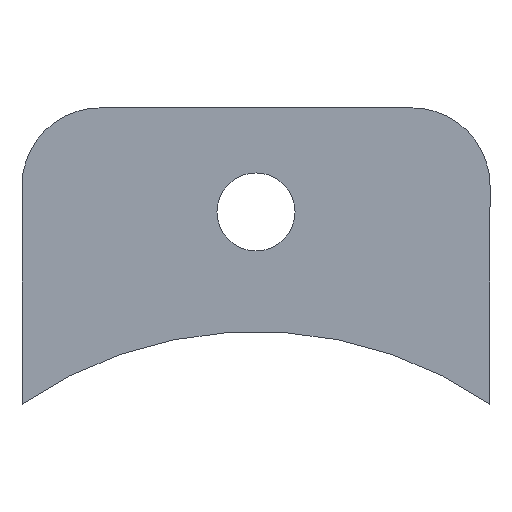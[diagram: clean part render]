
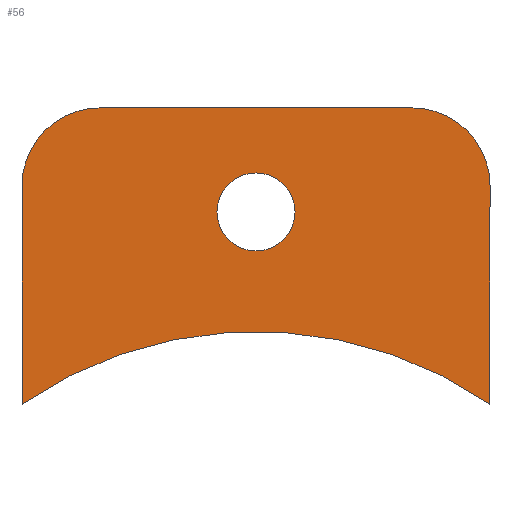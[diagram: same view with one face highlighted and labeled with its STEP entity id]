
A CAD part, front view. The second image highlights one B-rep face of the part: STEP entity #56.
In plain terms, the highlighted planar face has unit normal (0, -1, 0).
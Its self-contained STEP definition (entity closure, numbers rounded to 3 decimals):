
#56=ADVANCED_FACE('',(#75,#76),#77,.T.);
#75=FACE_BOUND('',#102,.T.);
#76=FACE_OUTER_BOUND('',#103,.T.);
#77=PLANE('',#104);
#102=EDGE_LOOP('',(#154,#155));
#103=EDGE_LOOP('',(#156,#157,#158,#159,#160,#161,#162,#163));
#104=AXIS2_PLACEMENT_3D('',#164,#165,#166);
#154=ORIENTED_EDGE('',*,*,#227,.F.);
#155=ORIENTED_EDGE('',*,*,#228,.F.);
#156=ORIENTED_EDGE('',*,*,#231,.F.);
#157=ORIENTED_EDGE('',*,*,#234,.T.);
#158=ORIENTED_EDGE('',*,*,#235,.T.);
#159=ORIENTED_EDGE('',*,*,#219,.T.);
#160=ORIENTED_EDGE('',*,*,#236,.T.);
#161=ORIENTED_EDGE('',*,*,#237,.T.);
#162=ORIENTED_EDGE('',*,*,#223,.T.);
#163=ORIENTED_EDGE('',*,*,#238,.T.);
#164=CARTESIAN_POINT('',(0.,14.775,38.066));
#165=DIRECTION('',(0.0,-1.0,0.));
#166=DIRECTION('',(1.0,0.,0.));
#219=EDGE_CURVE('',#247,#251,#253,.T.);
#223=EDGE_CURVE('',#255,#259,#261,.T.);
#227=EDGE_CURVE('',#267,#263,#269,.T.);
#228=EDGE_CURVE('',#263,#267,#270,.T.);
#231=EDGE_CURVE('',#273,#275,#276,.T.);
#234=EDGE_CURVE('',#273,#280,#281,.T.);
#235=EDGE_CURVE('',#280,#247,#282,.T.);
#236=EDGE_CURVE('',#251,#283,#284,.T.);
#237=EDGE_CURVE('',#283,#255,#285,.T.);
#238=EDGE_CURVE('',#259,#275,#286,.T.);
#247=VERTEX_POINT('',#297);
#251=VERTEX_POINT('',#302);
#253=CIRCLE('',#305,3.0);
#255=VERTEX_POINT('',#307);
#259=VERTEX_POINT('',#312);
#261=CIRCLE('',#315,3.0);
#263=VERTEX_POINT('',#317);
#267=VERTEX_POINT('',#322);
#269=CIRCLE('',#325,1.5);
#270=CIRCLE('',#326,1.5);
#273=VERTEX_POINT('',#329);
#275=VERTEX_POINT('',#332);
#276=CIRCLE('',#333,15.9);
#280=VERTEX_POINT('',#338);
#281=LINE('',#339,#340);
#282=CIRCLE('',#341,3.0);
#283=VERTEX_POINT('',#342);
#284=LINE('',#343,#344);
#285=CIRCLE('',#345,3.0);
#286=LINE('',#346,#347);
#297=CARTESIAN_POINT('',(8.119,14.775,42.894));
#302=CARTESIAN_POINT('',(5.998,14.775,43.773));
#305=AXIS2_PLACEMENT_3D('',#367,#368,#369);
#307=CARTESIAN_POINT('',(-8.119,14.775,42.894));
#312=CARTESIAN_POINT('',(-8.998,14.775,40.773));
#315=AXIS2_PLACEMENT_3D('',#375,#376,#377);
#317=CARTESIAN_POINT('',(1.5,14.775,39.773));
#322=CARTESIAN_POINT('',(-1.5,14.775,39.773));
#325=AXIS2_PLACEMENT_3D('',#383,#384,#385);
#326=AXIS2_PLACEMENT_3D('',#386,#387,#388);
#329=CARTESIAN_POINT('',(8.998,14.775,32.384));
#332=CARTESIAN_POINT('',(-8.998,14.775,32.384));
#333=AXIS2_PLACEMENT_3D('',#393,#394,#395);
#338=CARTESIAN_POINT('',(8.998,14.775,40.773));
#339=CARTESIAN_POINT('',(8.998,14.775,32.359));
#340=VECTOR('',#400,1.0);
#341=AXIS2_PLACEMENT_3D('',#401,#402,#403);
#342=CARTESIAN_POINT('',(-5.998,14.775,43.773));
#343=CARTESIAN_POINT('',(8.998,14.775,43.773));
#344=VECTOR('',#404,1.0);
#345=AXIS2_PLACEMENT_3D('',#405,#406,#407);
#346=CARTESIAN_POINT('',(-8.998,14.775,43.773));
#347=VECTOR('',#408,1.0);
#367=CARTESIAN_POINT('',(5.998,14.775,40.773));
#368=DIRECTION('',(0.0,-1.0,0.));
#369=DIRECTION('',(0.707,0.,0.707));
#375=CARTESIAN_POINT('',(-5.998,14.775,40.773));
#376=DIRECTION('',(0.0,-1.0,0.));
#377=DIRECTION('',(-0.707,0.,0.707));
#383=CARTESIAN_POINT('',(0.,14.775,39.773));
#384=DIRECTION('',(0.0,-1.0,0.));
#385=DIRECTION('',(1.0,0.,0.));
#386=CARTESIAN_POINT('',(0.,14.775,39.773));
#387=DIRECTION('',(0.0,-1.0,0.));
#388=DIRECTION('',(1.0,0.,0.));
#393=CARTESIAN_POINT('',(0.,14.775,19.275));
#394=DIRECTION('',(0.0,-1.0,0.));
#395=DIRECTION('',(1.0,0.,0.));
#400=DIRECTION('',(0.,0.,1.0));
#401=CARTESIAN_POINT('',(5.998,14.775,40.773));
#402=DIRECTION('',(0.0,-1.0,0.));
#403=DIRECTION('',(0.707,0.,0.707));
#404=DIRECTION('',(-1.0,0.,0.));
#405=CARTESIAN_POINT('',(-5.998,14.775,40.773));
#406=DIRECTION('',(0.0,-1.0,0.));
#407=DIRECTION('',(-0.707,0.,0.707));
#408=DIRECTION('',(0.,0.,-1.0));
